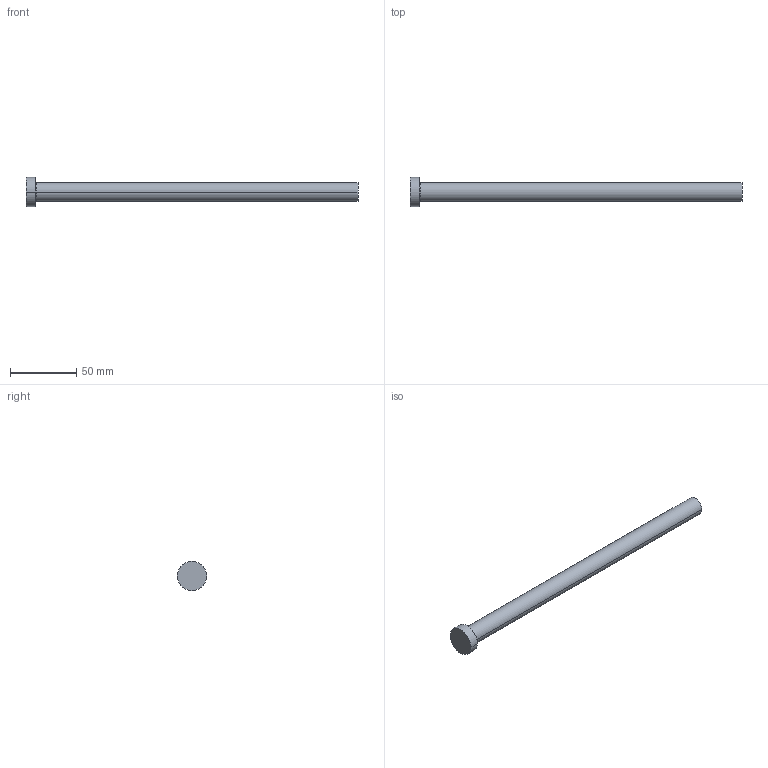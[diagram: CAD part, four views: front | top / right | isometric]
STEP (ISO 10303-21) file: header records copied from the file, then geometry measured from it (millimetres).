
FILE_DESCRIPTION (( 'STEP AP214' ), '1' );
FILE_NAME ('A-14x250.STEP', '2020-05-29T16:16:13', ( 'August' ), ( '' ), 'SwSTEP 2.0', 'SolidWorks 2018', '' );
FILE_SCHEMA (( 'AUTOMOTIVE_DESIGN' ));
Length unit declared in the file: millimetre
Products named in the file (1): A-14x250
Bounding box: 250 x 22 x 22 mm (x, y, z)
Volume: 40074.1 mm3; surface area: 11917 mm2
Topology: 1 solids, 1 shells, 9 faces, 16 edges, 10 vertices
Faces by surface type: cylinder 4, plane 3, torus 2
Entity records: 260 total; most frequent: DIRECTION 48, CARTESIAN_POINT 36, ORIENTED_EDGE 32, AXIS2_PLACEMENT_3D 22, EDGE_CURVE 16, CIRCLE 12, VERTEX_POINT 10, EDGE_LOOP 10
